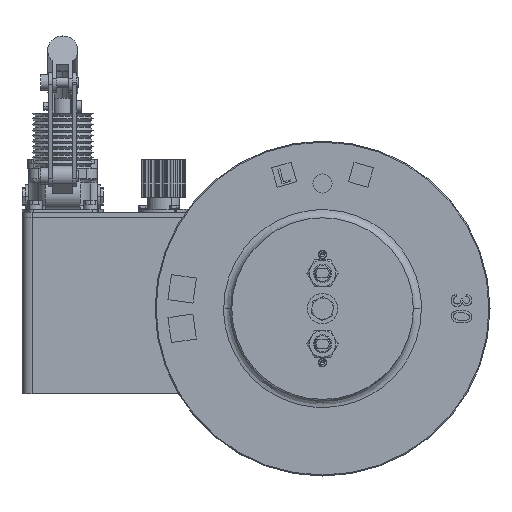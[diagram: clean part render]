
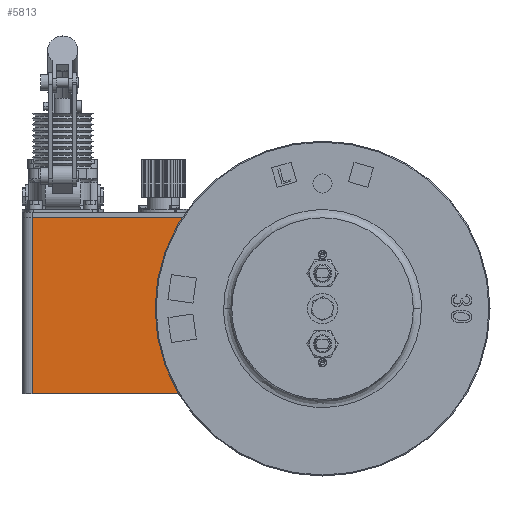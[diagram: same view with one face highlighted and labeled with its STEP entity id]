
A CAD part, left-side view. The second image highlights one B-rep face of the part: STEP entity #5813.
In plain terms, the highlighted planar face has unit normal (-1, 0, 0).
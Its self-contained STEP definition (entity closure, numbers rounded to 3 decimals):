
#4530 = CARTESIAN_POINT ( 'NONE',  ( -90., 150., -27. ) ) ;
#5813 = ADVANCED_FACE ( 'NONE', ( #92393 ), #20663, .F. ) ;
#10177 = CARTESIAN_POINT ( 'NONE',  ( -90., 230., 148. ) ) ;
#10372 = CARTESIAN_POINT ( 'NONE',  ( -90., 150., 60.5 ) ) ;
#14308 = VECTOR ( 'NONE', #26994, 1000. ) ;
#16051 = CARTESIAN_POINT ( 'NONE',  ( -90., 310., -27. ) ) ;
#16622 = VECTOR ( 'NONE', #46415, 1000. ) ;
#17949 = EDGE_CURVE ( 'NONE', #76455, #61700, #90443, .T. ) ;
#19351 = EDGE_CURVE ( 'NONE', #61700, #44337, #56254, .T. ) ;
#20000 = ORIENTED_EDGE ( 'NONE', *, *, #17949, .F. ) ;
#20663 = PLANE ( 'NONE',  #30299 ) ;
#23577 = EDGE_CURVE ( 'NONE', #52741, #44337, #93243, .T. ) ;
#26286 = EDGE_LOOP ( 'NONE', ( #20000, #53913, #59622, #29950 ) ) ;
#26994 = DIRECTION ( 'NONE',  ( 0., 0., -1. ) ) ;
#29470 = DIRECTION ( 'NONE',  ( 1., 0., 0. ) ) ;
#29725 = VECTOR ( 'NONE', #40876, 1000. ) ;
#29950 = ORIENTED_EDGE ( 'NONE', *, *, #19351, .F. ) ;
#30299 = AXIS2_PLACEMENT_3D ( 'NONE', #4530, #29470, #92907 ) ;
#33073 = LINE ( 'NONE', #10177, #29725 ) ;
#40876 = DIRECTION ( 'NONE',  ( 0., 1., 0. ) ) ;
#44337 = VERTEX_POINT ( 'NONE', #16051 ) ;
#46415 = DIRECTION ( 'NONE',  ( 0., 0., -1. ) ) ;
#52095 = CARTESIAN_POINT ( 'NONE',  ( -90., 150., -27. ) ) ;
#52741 = VERTEX_POINT ( 'NONE', #84318 ) ;
#53913 = ORIENTED_EDGE ( 'NONE', *, *, #101661, .T. ) ;
#54403 = VECTOR ( 'NONE', #87988, 1000. ) ;
#56254 = LINE ( 'NONE', #79149, #54403 ) ;
#59622 = ORIENTED_EDGE ( 'NONE', *, *, #23577, .T. ) ;
#61700 = VERTEX_POINT ( 'NONE', #52095 ) ;
#67292 = CARTESIAN_POINT ( 'NONE',  ( -90., 150., 148. ) ) ;
#76455 = VERTEX_POINT ( 'NONE', #67292 ) ;
#77634 = CARTESIAN_POINT ( 'NONE',  ( -90., 310., 60.5 ) ) ;
#79149 = CARTESIAN_POINT ( 'NONE',  ( -90., 230., -27. ) ) ;
#84318 = CARTESIAN_POINT ( 'NONE',  ( -90., 310., 148. ) ) ;
#87988 = DIRECTION ( 'NONE',  ( 0., 1., 0. ) ) ;
#90443 = LINE ( 'NONE', #10372, #14308 ) ;
#92393 = FACE_OUTER_BOUND ( 'NONE', #26286, .T. ) ;
#92907 = DIRECTION ( 'NONE',  ( 0., 1., 0. ) ) ;
#93243 = LINE ( 'NONE', #77634, #16622 ) ;
#101661 = EDGE_CURVE ( 'NONE', #76455, #52741, #33073, .T. ) ;
